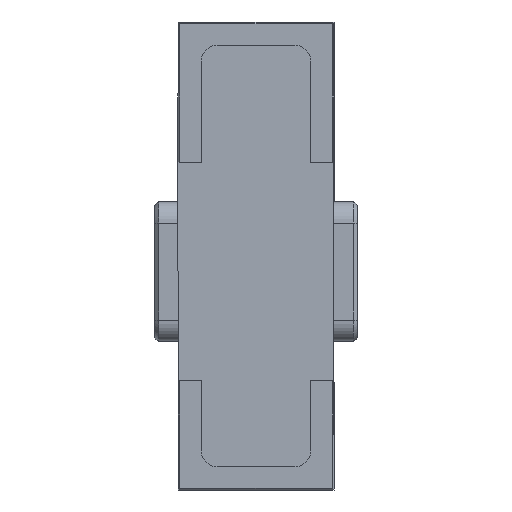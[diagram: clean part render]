
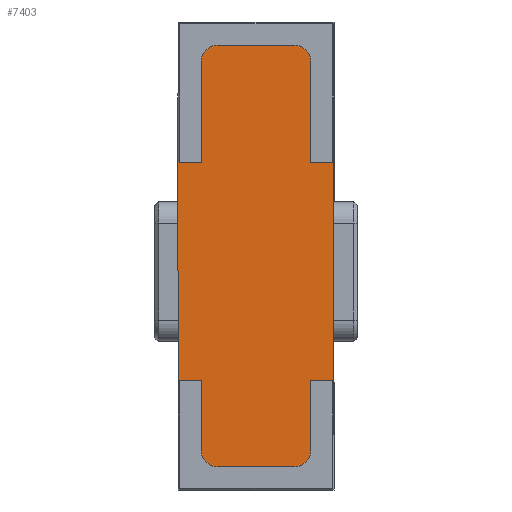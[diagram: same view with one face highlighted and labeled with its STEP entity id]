
A CAD part, left-side view. The second image highlights one B-rep face of the part: STEP entity #7403.
In plain terms, the highlighted planar face has unit normal (-1, 0, 0).
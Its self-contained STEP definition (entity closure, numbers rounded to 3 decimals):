
#329 = VECTOR ( 'NONE', #11531, 1000. ) ;
#862 = DIRECTION ( 'NONE',  ( 0., -1., 0. ) ) ;
#1045 = CARTESIAN_POINT ( 'NONE',  ( -30., -7., -16. ) ) ;
#1284 = CIRCLE ( 'NONE', #10619, 2. ) ;
#1446 = CARTESIAN_POINT ( 'NONE',  ( -30., 7., 12. ) ) ;
#2078 = EDGE_LOOP ( 'NONE', ( #3998, #10292, #3076, #34697, #26919, #5583, #10548, #5488, #8935, #33775, #6675, #22794, #27428, #4910, #34406, #33029 ) ) ;
#2551 = DIRECTION ( 'NONE',  ( 0., -1., 0. ) ) ;
#2713 = EDGE_CURVE ( 'NONE', #11583, #26018, #17803, .T. ) ;
#2759 = CARTESIAN_POINT ( 'NONE',  ( -30., 5., -25. ) ) ;
#2878 = VERTEX_POINT ( 'NONE', #9779 ) ;
#2941 = DIRECTION ( 'NONE',  ( 0., 1., 0. ) ) ;
#3040 = CARTESIAN_POINT ( 'NONE',  ( -30., -5., -27. ) ) ;
#3076 = ORIENTED_EDGE ( 'NONE', *, *, #10582, .T. ) ;
#3262 = VECTOR ( 'NONE', #9514, 1000. ) ;
#3981 = CARTESIAN_POINT ( 'NONE',  ( -30., -7., 25. ) ) ;
#3998 = ORIENTED_EDGE ( 'NONE', *, *, #32291, .T. ) ;
#4022 = VERTEX_POINT ( 'NONE', #9693 ) ;
#4252 = LINE ( 'NONE', #21058, #23577 ) ;
#4460 = VERTEX_POINT ( 'NONE', #31343 ) ;
#4474 = AXIS2_PLACEMENT_3D ( 'NONE', #6523, #31970, #18017 ) ;
#4743 = CARTESIAN_POINT ( 'NONE',  ( -30., 10., -16. ) ) ;
#4910 = ORIENTED_EDGE ( 'NONE', *, *, #20857, .T. ) ;
#5488 = ORIENTED_EDGE ( 'NONE', *, *, #16456, .T. ) ;
#5583 = ORIENTED_EDGE ( 'NONE', *, *, #33348, .T. ) ;
#5824 = VERTEX_POINT ( 'NONE', #11893 ) ;
#6131 = DIRECTION ( 'NONE',  ( 0., -1., 0. ) ) ;
#6337 = LINE ( 'NONE', #17462, #13690 ) ;
#6523 = CARTESIAN_POINT ( 'NONE',  ( -30., -5., 25. ) ) ;
#6675 = ORIENTED_EDGE ( 'NONE', *, *, #29820, .T. ) ;
#6884 = VERTEX_POINT ( 'NONE', #25991 ) ;
#6931 = PLANE ( 'NONE',  #27065 ) ;
#7154 = EDGE_CURVE ( 'NONE', #2878, #4022, #34394, .T. ) ;
#7286 = DIRECTION ( 'NONE',  ( 0., 0., 1. ) ) ;
#7326 = DIRECTION ( 'NONE',  ( -1., 0., 0. ) ) ;
#7403 = ADVANCED_FACE ( 'NONE', ( #23734 ), #6931, .T. ) ;
#7460 = VERTEX_POINT ( 'NONE', #17708 ) ;
#8419 = LINE ( 'NONE', #33491, #20801 ) ;
#8486 = VECTOR ( 'NONE', #10899, 1000. ) ;
#8517 = CARTESIAN_POINT ( 'NONE',  ( -30., 10., 12. ) ) ;
#8817 = CIRCLE ( 'NONE', #29265, 2. ) ;
#8935 = ORIENTED_EDGE ( 'NONE', *, *, #11612, .T. ) ;
#9330 = CARTESIAN_POINT ( 'NONE',  ( -30., -7., -25. ) ) ;
#9514 = DIRECTION ( 'NONE',  ( 0., 0., 1. ) ) ;
#9693 = CARTESIAN_POINT ( 'NONE',  ( -30., 5., 27. ) ) ;
#9746 = VERTEX_POINT ( 'NONE', #32751 ) ;
#9779 = CARTESIAN_POINT ( 'NONE',  ( -30., -5., 27. ) ) ;
#9937 = EDGE_CURVE ( 'NONE', #7460, #25635, #30180, .T. ) ;
#10235 = LINE ( 'NONE', #12420, #15796 ) ;
#10292 = ORIENTED_EDGE ( 'NONE', *, *, #15037, .T. ) ;
#10548 = ORIENTED_EDGE ( 'NONE', *, *, #7154, .T. ) ;
#10582 = EDGE_CURVE ( 'NONE', #20006, #5824, #6337, .T. ) ;
#10619 = AXIS2_PLACEMENT_3D ( 'NONE', #32369, #16227, #7286 ) ;
#10723 = CARTESIAN_POINT ( 'NONE',  ( -30., 7., -16. ) ) ;
#10899 = DIRECTION ( 'NONE',  ( 0., 0., -1. ) ) ;
#10980 = CARTESIAN_POINT ( 'NONE',  ( -30., -7., -16. ) ) ;
#11156 = DIRECTION ( 'NONE',  ( 0., 0., 1. ) ) ;
#11531 = DIRECTION ( 'NONE',  ( 0., 1., 0. ) ) ;
#11583 = VERTEX_POINT ( 'NONE', #29659 ) ;
#11612 = EDGE_CURVE ( 'NONE', #4460, #18447, #8419, .T. ) ;
#11893 = CARTESIAN_POINT ( 'NONE',  ( -30., -10., 12. ) ) ;
#12343 = DIRECTION ( 'NONE',  ( 0., 0., 1. ) ) ;
#12413 = VERTEX_POINT ( 'NONE', #31404 ) ;
#12420 = CARTESIAN_POINT ( 'NONE',  ( -30., 7., 12. ) ) ;
#12768 = CARTESIAN_POINT ( 'NONE',  ( -30., -5., 25. ) ) ;
#13690 = VECTOR ( 'NONE', #12343, 1000. ) ;
#14635 = EDGE_CURVE ( 'NONE', #26018, #6884, #1284, .T. ) ;
#14795 = CARTESIAN_POINT ( 'NONE',  ( -30., -5., 27. ) ) ;
#15037 = EDGE_CURVE ( 'NONE', #20812, #20006, #20223, .T. ) ;
#15399 = DIRECTION ( 'NONE',  ( 0., 0., 1. ) ) ;
#15555 = CIRCLE ( 'NONE', #4474, 2. ) ;
#15661 = EDGE_CURVE ( 'NONE', #25635, #24798, #17788, .T. ) ;
#15796 = VECTOR ( 'NONE', #18079, 1000. ) ;
#16026 = VECTOR ( 'NONE', #6131, 1000. ) ;
#16227 = DIRECTION ( 'NONE',  ( -1., 0., 0. ) ) ;
#16329 = LINE ( 'NONE', #18895, #329 ) ;
#16456 = EDGE_CURVE ( 'NONE', #4022, #4460, #8817, .T. ) ;
#17462 = CARTESIAN_POINT ( 'NONE',  ( -30., -10., -16. ) ) ;
#17708 = CARTESIAN_POINT ( 'NONE',  ( -30., 10., -16. ) ) ;
#17788 = LINE ( 'NONE', #28973, #25225 ) ;
#17803 = LINE ( 'NONE', #31200, #16026 ) ;
#18017 = DIRECTION ( 'NONE',  ( 0., 0., 1. ) ) ;
#18079 = DIRECTION ( 'NONE',  ( 0., 1., 0. ) ) ;
#18447 = VERTEX_POINT ( 'NONE', #1446 ) ;
#18895 = CARTESIAN_POINT ( 'NONE',  ( -30., -10., 12. ) ) ;
#20006 = VERTEX_POINT ( 'NONE', #30465 ) ;
#20178 = DIRECTION ( 'NONE',  ( 0., 0., -1. ) ) ;
#20223 = LINE ( 'NONE', #1045, #27571 ) ;
#20801 = VECTOR ( 'NONE', #33135, 1000. ) ;
#20812 = VERTEX_POINT ( 'NONE', #10980 ) ;
#20857 = EDGE_CURVE ( 'NONE', #24798, #11583, #32219, .T. ) ;
#21058 = CARTESIAN_POINT ( 'NONE',  ( -30., -7., 12. ) ) ;
#22794 = ORIENTED_EDGE ( 'NONE', *, *, #9937, .T. ) ;
#22895 = EDGE_CURVE ( 'NONE', #18447, #9746, #10235, .T. ) ;
#23527 = VERTEX_POINT ( 'NONE', #3981 ) ;
#23577 = VECTOR ( 'NONE', #15399, 1000. ) ;
#23734 = FACE_OUTER_BOUND ( 'NONE', #2078, .T. ) ;
#24164 = VECTOR ( 'NONE', #2551, 1000. ) ;
#24779 = LINE ( 'NONE', #8517, #8486 ) ;
#24798 = VERTEX_POINT ( 'NONE', #28408 ) ;
#25225 = VECTOR ( 'NONE', #20178, 1000. ) ;
#25263 = VECTOR ( 'NONE', #2941, 1000. ) ;
#25635 = VERTEX_POINT ( 'NONE', #10723 ) ;
#25991 = CARTESIAN_POINT ( 'NONE',  ( -30., -7., -25. ) ) ;
#26018 = VERTEX_POINT ( 'NONE', #3040 ) ;
#26919 = ORIENTED_EDGE ( 'NONE', *, *, #27715, .T. ) ;
#27065 = AXIS2_PLACEMENT_3D ( 'NONE', #12768, #35302, #34944 ) ;
#27428 = ORIENTED_EDGE ( 'NONE', *, *, #15661, .T. ) ;
#27571 = VECTOR ( 'NONE', #862, 1000. ) ;
#27715 = EDGE_CURVE ( 'NONE', #12413, #23527, #4252, .T. ) ;
#27993 = DIRECTION ( 'NONE',  ( -1., 0., 0. ) ) ;
#28098 = AXIS2_PLACEMENT_3D ( 'NONE', #2759, #27993, #11156 ) ;
#28408 = CARTESIAN_POINT ( 'NONE',  ( -30., 7., -25. ) ) ;
#28973 = CARTESIAN_POINT ( 'NONE',  ( -30., 7., -16. ) ) ;
#29265 = AXIS2_PLACEMENT_3D ( 'NONE', #32223, #7326, #29648 ) ;
#29648 = DIRECTION ( 'NONE',  ( 0., 0., 1. ) ) ;
#29659 = CARTESIAN_POINT ( 'NONE',  ( -30., 5., -27. ) ) ;
#29820 = EDGE_CURVE ( 'NONE', #9746, #7460, #24779, .T. ) ;
#30180 = LINE ( 'NONE', #4743, #24164 ) ;
#30266 = EDGE_CURVE ( 'NONE', #5824, #12413, #16329, .T. ) ;
#30465 = CARTESIAN_POINT ( 'NONE',  ( -30., -10., -16. ) ) ;
#31200 = CARTESIAN_POINT ( 'NONE',  ( -30., 5., -27. ) ) ;
#31343 = CARTESIAN_POINT ( 'NONE',  ( -30., 7., 25. ) ) ;
#31404 = CARTESIAN_POINT ( 'NONE',  ( -30., -7., 12. ) ) ;
#31970 = DIRECTION ( 'NONE',  ( -1., 0., 0. ) ) ;
#32219 = CIRCLE ( 'NONE', #28098, 2. ) ;
#32223 = CARTESIAN_POINT ( 'NONE',  ( -30., 5., 25. ) ) ;
#32291 = EDGE_CURVE ( 'NONE', #6884, #20812, #33730, .T. ) ;
#32369 = CARTESIAN_POINT ( 'NONE',  ( -30., -5., -25. ) ) ;
#32751 = CARTESIAN_POINT ( 'NONE',  ( -30., 10., 12. ) ) ;
#33029 = ORIENTED_EDGE ( 'NONE', *, *, #14635, .T. ) ;
#33135 = DIRECTION ( 'NONE',  ( 0., 0., -1. ) ) ;
#33348 = EDGE_CURVE ( 'NONE', #23527, #2878, #15555, .T. ) ;
#33491 = CARTESIAN_POINT ( 'NONE',  ( -30., 7., 25. ) ) ;
#33730 = LINE ( 'NONE', #9330, #3262 ) ;
#33775 = ORIENTED_EDGE ( 'NONE', *, *, #22895, .T. ) ;
#34394 = LINE ( 'NONE', #14795, #25263 ) ;
#34406 = ORIENTED_EDGE ( 'NONE', *, *, #2713, .T. ) ;
#34697 = ORIENTED_EDGE ( 'NONE', *, *, #30266, .T. ) ;
#34944 = DIRECTION ( 'NONE',  ( 0., 0., 1. ) ) ;
#35302 = DIRECTION ( 'NONE',  ( -1., 0., 0. ) ) ;
